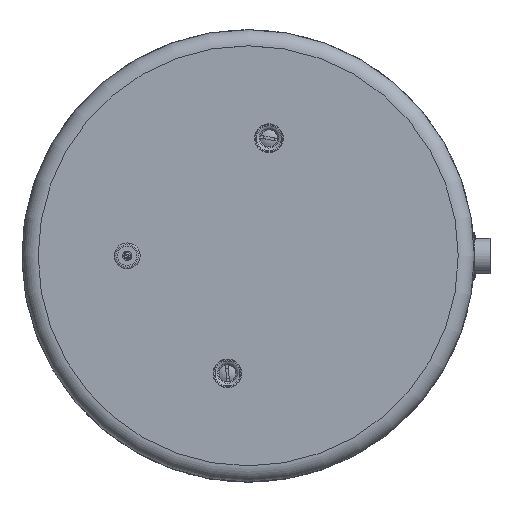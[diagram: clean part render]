
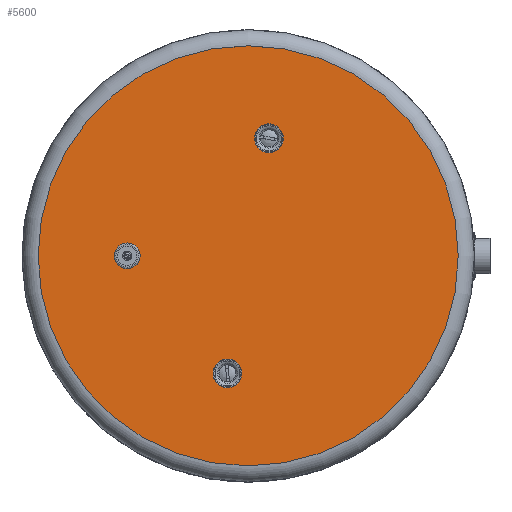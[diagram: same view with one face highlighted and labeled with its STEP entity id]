
A CAD part, top view. The second image highlights one B-rep face of the part: STEP entity #5600.
In plain terms, the highlighted planar face has unit normal (0, 0, 1) as drawn and (-1, 0, 0) by its records, which use the part's own axes.
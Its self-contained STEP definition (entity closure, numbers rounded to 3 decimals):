
#5306=PLANE('',#14877);
#5600=ADVANCED_FACE('',(#6741,#6742,#6743,#6744),#5306,.T.);
#6741=FACE_BOUND('',#8183,.T.);
#6742=FACE_BOUND('',#8184,.T.);
#6743=FACE_BOUND('',#8185,.T.);
#6744=FACE_BOUND('',#8186,.T.);
#8183=EDGE_LOOP('',(#9763));
#8184=EDGE_LOOP('',(#9764));
#8185=EDGE_LOOP('',(#9765));
#8186=EDGE_LOOP('',(#9766));
#9763=ORIENTED_EDGE('',*,*,#12958,.F.);
#9764=ORIENTED_EDGE('',*,*,#12959,.T.);
#9765=ORIENTED_EDGE('',*,*,#12960,.T.);
#9766=ORIENTED_EDGE('',*,*,#12961,.T.);
#11911=VERTEX_POINT('',#20020);
#11912=VERTEX_POINT('',#20022);
#11913=VERTEX_POINT('',#20024);
#11914=VERTEX_POINT('',#20026);
#12958=EDGE_CURVE('',#11911,#11911,#14045,.T.);
#12959=EDGE_CURVE('',#11912,#11912,#14046,.T.);
#12960=EDGE_CURVE('',#11913,#11913,#14047,.T.);
#12961=EDGE_CURVE('',#11914,#11914,#14048,.T.);
#14045=CIRCLE('',#14873,6.);
#14046=CIRCLE('',#14874,8.907);
#14047=CIRCLE('',#14875,8.907);
#14048=CIRCLE('',#14876,130.2);
#14873=AXIS2_PLACEMENT_3D('',#20019,#16577,#16578);
#14874=AXIS2_PLACEMENT_3D('',#20021,#16579,#16580);
#14875=AXIS2_PLACEMENT_3D('',#20023,#16581,#16582);
#14876=AXIS2_PLACEMENT_3D('',#20025,#16583,#16584);
#14877=AXIS2_PLACEMENT_3D('',#20027,#16585,#16586);
#16577=DIRECTION('',(-1.,0.,0.));
#16578=DIRECTION('',(0.,0.,1.));
#16579=DIRECTION('',(1.,0.,0.));
#16580=DIRECTION('',(0.,0.,1.));
#16581=DIRECTION('',(1.,0.,0.));
#16582=DIRECTION('',(0.,0.,1.));
#16583=DIRECTION('',(-1.,0.,0.));
#16584=DIRECTION('',(0.,0.,1.));
#16585=DIRECTION('',(-1.,0.,0.));
#16586=DIRECTION('',(0.,0.,1.));
#20019=CARTESIAN_POINT('',(0.,-75.,0.));
#20020=CARTESIAN_POINT('',(0.,-75.,6.));
#20021=CARTESIAN_POINT('',(0.,12.85,-72.876));
#20022=CARTESIAN_POINT('',(0.,12.85,-63.969));
#20023=CARTESIAN_POINT('',(0.,-12.85,72.876));
#20024=CARTESIAN_POINT('',(0.,-12.85,81.783));
#20025=CARTESIAN_POINT('',(0.,0.,0.));
#20026=CARTESIAN_POINT('',(0.,0.,130.2));
#20027=CARTESIAN_POINT('',(0.,0.,0.));
